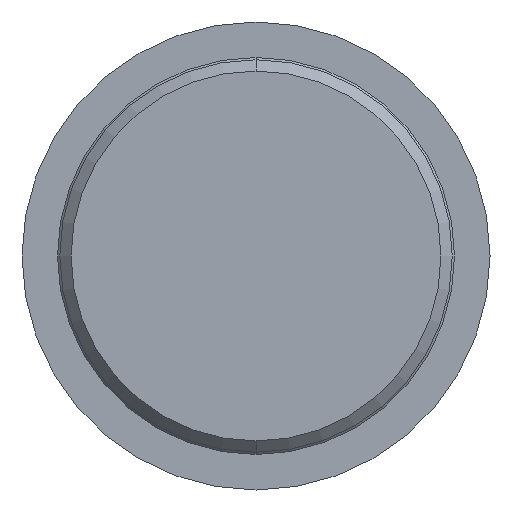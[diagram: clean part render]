
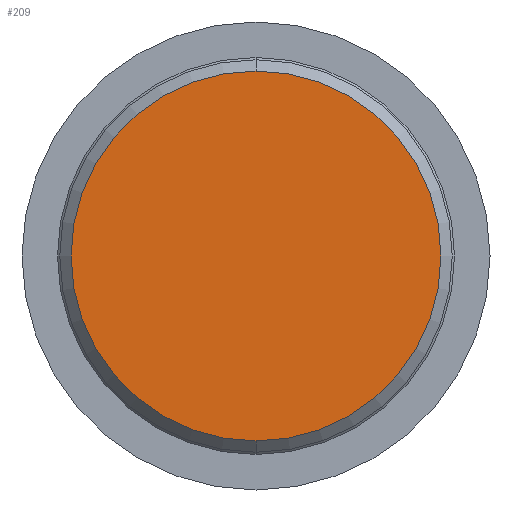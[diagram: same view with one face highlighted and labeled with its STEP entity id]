
A CAD part, front view. The second image highlights one B-rep face of the part: STEP entity #209.
In plain terms, the highlighted planar face has unit normal (0, -1, 0).
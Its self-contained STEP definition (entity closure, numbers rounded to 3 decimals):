
#34 = ORIENTED_EDGE ( 'NONE', *, *, #352, .F. ) ;
#41 = ORIENTED_EDGE ( 'NONE', *, *, #42, .F. ) ;
#42 = EDGE_CURVE ( 'NONE', #337, #515, #46, .T. ) ;
#43 = CARTESIAN_POINT ( 'NONE',  ( 0., 0., -12.25 ) ) ;
#46 = CIRCLE ( 'NONE', #129, 12.25 ) ;
#114 = CARTESIAN_POINT ( 'NONE',  ( 12.25, 0., 0. ) ) ;
#129 = AXIS2_PLACEMENT_3D ( 'NONE', #557, #574, #147 ) ;
#147 = DIRECTION ( 'NONE',  ( 0., 0., 1. ) ) ;
#168 = CARTESIAN_POINT ( 'NONE',  ( 0., 0., 12.25 ) ) ;
#209 = ADVANCED_FACE ( 'NONE', ( #463 ), #599, .F. ) ;
#249 = AXIS2_PLACEMENT_3D ( 'NONE', #114, #347, #590 ) ;
#261 = AXIS2_PLACEMENT_3D ( 'NONE', #550, #661, #610 ) ;
#337 = VERTEX_POINT ( 'NONE', #168 ) ;
#340 = CIRCLE ( 'NONE', #261, 12.25 ) ;
#347 = DIRECTION ( 'NONE',  ( 0., 1., 0. ) ) ;
#352 = EDGE_CURVE ( 'NONE', #515, #337, #340, .T. ) ;
#463 = FACE_OUTER_BOUND ( 'NONE', #634, .T. ) ;
#515 = VERTEX_POINT ( 'NONE', #43 ) ;
#550 = CARTESIAN_POINT ( 'NONE',  ( 0., 0., 0. ) ) ;
#557 = CARTESIAN_POINT ( 'NONE',  ( 0., 0., 0. ) ) ;
#574 = DIRECTION ( 'NONE',  ( 0., 1., 0. ) ) ;
#590 = DIRECTION ( 'NONE',  ( 0., 0., 1. ) ) ;
#599 = PLANE ( 'NONE',  #249 ) ;
#610 = DIRECTION ( 'NONE',  ( 0., 0., 1. ) ) ;
#634 = EDGE_LOOP ( 'NONE', ( #41, #34 ) ) ;
#661 = DIRECTION ( 'NONE',  ( 0., 1., 0. ) ) ;
